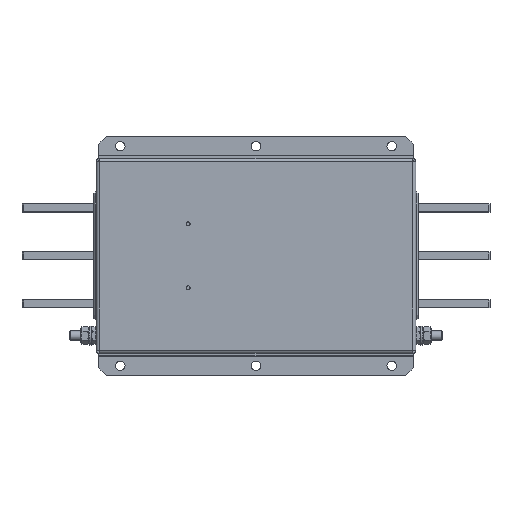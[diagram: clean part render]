
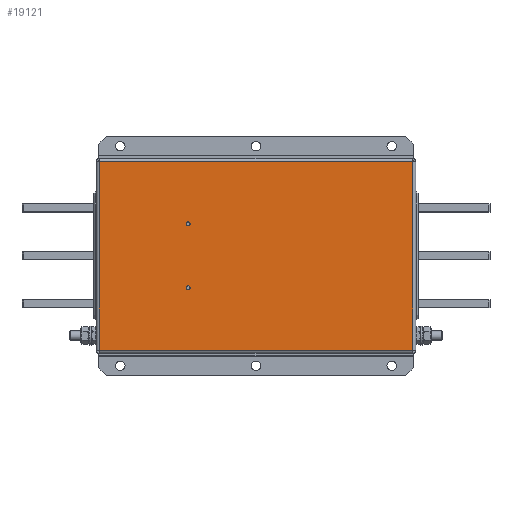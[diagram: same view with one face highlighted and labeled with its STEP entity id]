
A CAD part, top view. The second image highlights one B-rep face of the part: STEP entity #19121.
In plain terms, the highlighted planar face has unit normal (0, 0, 1).
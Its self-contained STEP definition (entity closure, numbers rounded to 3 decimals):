
#401=LINE('',#28285,#1989);
#445=LINE('',#28513,#2033);
#465=LINE('',#28682,#2053);
#482=LINE('',#28723,#2070);
#1989=VECTOR('',#22496,392.4);
#2033=VECTOR('',#22618,236.4);
#2053=VECTOR('',#22670,392.4);
#2070=VECTOR('',#22721,236.4);
#3512=PLANE('',#20315);
#4099=FACE_BOUND('',#5690,.T.);
#4100=FACE_BOUND('',#5691,.T.);
#4536=FACE_OUTER_BOUND('',#5689,.T.);
#5689=EDGE_LOOP('',(#12873,#12874,#12875,#12876));
#5690=EDGE_LOOP('',(#12877));
#5691=EDGE_LOOP('',(#12878));
#6940=CIRCLE('',#20122,2.41);
#6942=CIRCLE('',#20126,2.41);
#7840=VERTEX_POINT('',#27617);
#7842=VERTEX_POINT('',#27623);
#7971=VERTEX_POINT('',#28074);
#7998=VERTEX_POINT('',#28258);
#8021=VERTEX_POINT('',#28451);
#8051=VERTEX_POINT('',#28667);
#9648=EDGE_CURVE('',#7840,#7840,#6940,.T.);
#9650=EDGE_CURVE('',#7842,#7842,#6942,.T.);
#9861=EDGE_CURVE('',#7971,#7998,#401,.T.);
#9921=EDGE_CURVE('',#8021,#7971,#445,.T.);
#9951=EDGE_CURVE('',#8021,#8051,#465,.T.);
#9972=EDGE_CURVE('',#7998,#8051,#482,.T.);
#12873=ORIENTED_EDGE('',*,*,#9951,.T.);
#12874=ORIENTED_EDGE('',*,*,#9972,.F.);
#12875=ORIENTED_EDGE('',*,*,#9861,.F.);
#12876=ORIENTED_EDGE('',*,*,#9921,.F.);
#12877=ORIENTED_EDGE('',*,*,#9648,.T.);
#12878=ORIENTED_EDGE('',*,*,#9650,.T.);
#19121=ADVANCED_FACE('',(#4536,#4099,#4100),#3512,.T.);
#20122=AXIS2_PLACEMENT_3D('',#27618,#22093,#22094);
#20126=AXIS2_PLACEMENT_3D('',#27624,#22101,#22102);
#20315=AXIS2_PLACEMENT_3D('',#28722,#22719,#22720);
#22093=DIRECTION('center_axis',(0.,0.,-1.));
#22094=DIRECTION('ref_axis',(1.,0.,0.));
#22101=DIRECTION('center_axis',(0.,0.,-1.));
#22102=DIRECTION('ref_axis',(1.,0.,0.));
#22496=DIRECTION('',(-1.,0.,0.));
#22618=DIRECTION('',(0.,-1.,0.));
#22670=DIRECTION('',(-1.,0.,0.));
#22719=DIRECTION('center_axis',(0.,0.,1.));
#22720=DIRECTION('ref_axis',(1.,0.,0.));
#22721=DIRECTION('',(0.,1.,0.));
#27617=CARTESIAN_POINT('',(-82.59,40.,160.));
#27618=CARTESIAN_POINT('Origin',(-85.,40.,160.));
#27623=CARTESIAN_POINT('',(-82.59,-40.,160.));
#27624=CARTESIAN_POINT('Origin',(-85.,-40.,160.));
#28074=CARTESIAN_POINT('',(196.2,-118.2,160.));
#28258=CARTESIAN_POINT('',(-196.2,-118.2,160.));
#28285=CARTESIAN_POINT('',(196.2,-118.2,160.));
#28451=CARTESIAN_POINT('',(196.2,118.2,160.));
#28513=CARTESIAN_POINT('',(196.2,118.2,160.));
#28667=CARTESIAN_POINT('',(-196.2,118.2,160.));
#28682=CARTESIAN_POINT('',(196.2,118.2,160.));
#28722=CARTESIAN_POINT('Origin',(0.,0.,160.));
#28723=CARTESIAN_POINT('',(-196.2,-118.2,160.));
